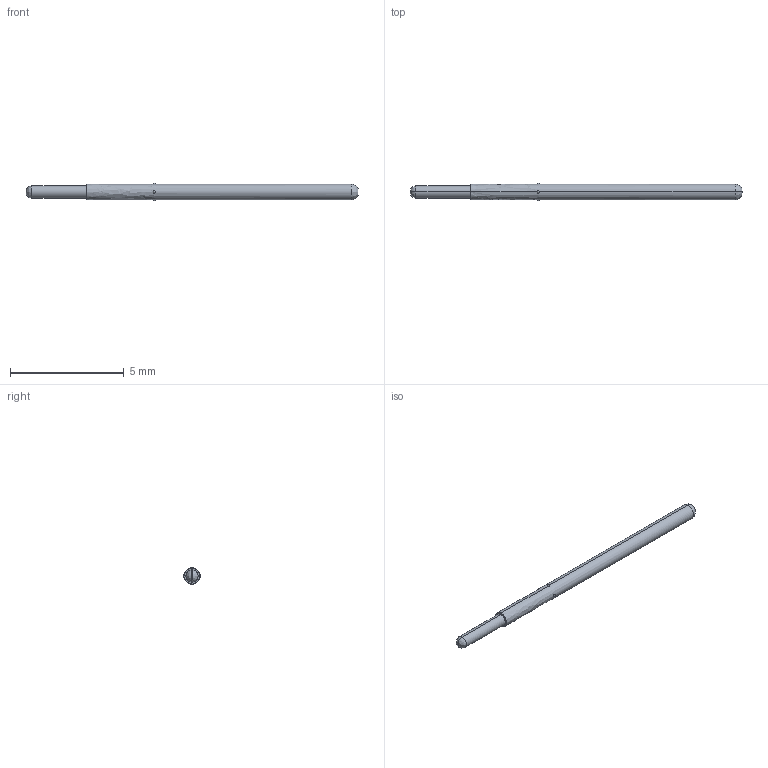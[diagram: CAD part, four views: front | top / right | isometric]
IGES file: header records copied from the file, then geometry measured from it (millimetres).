
Start section: SolidWorks IGES file using analytic representation for surfaces
Global section: file name: O:\PYLON\IGES FILES\P2662B\P2662B-1R1S.IGS; native system: SolidWorks 2015; preprocessor: SolidWorks 2015; author: kgolden; date: 171019.092336; units: inch
Bounding box: 14.57 x 0.79 x 0.79 mm (x, y, z)
Surface area: 32.9 mm2 (no closed solid volume)
Topology: 0 solids, 0 shells, 21 faces, 192 edges, 176 vertices
Faces by surface type: revolution 14, bspline 7
